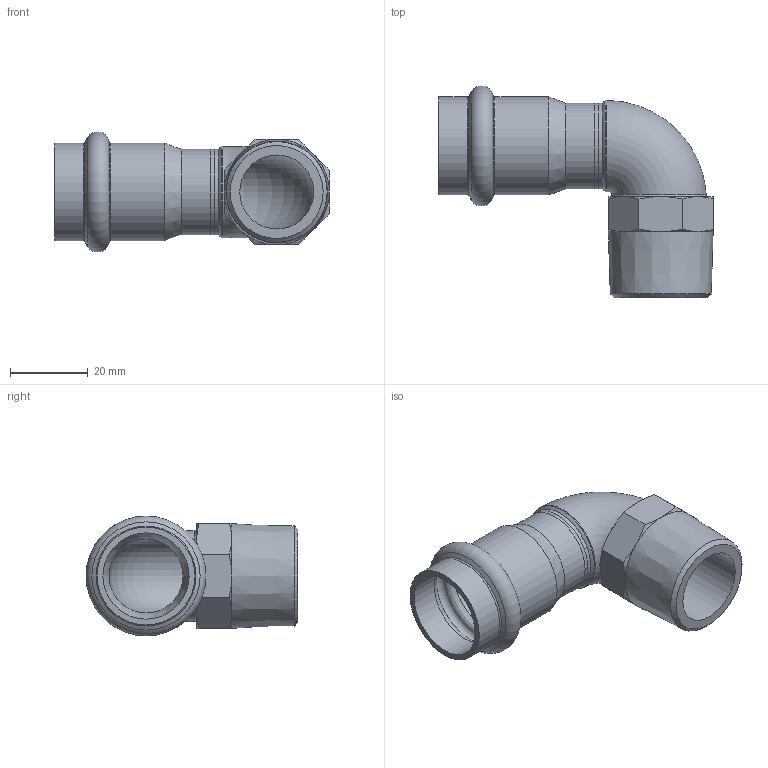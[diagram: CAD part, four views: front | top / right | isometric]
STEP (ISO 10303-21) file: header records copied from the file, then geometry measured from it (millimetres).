
FILE_DESCRIPTION((''),'2;1');
FILE_NAME('G:\Nirosan-Schmiedefeld\Technics\CAD\001 Serie 9.000\022\69092AG2234H(3).stp','2017-05-15T15:25:35',('herberg'),(''),'Autodesk Inventor 2009','Autodesk Inventor 2009','');
FILE_SCHEMA(('AUTOMOTIVE_DESIGN { 1 0 10303 214 1 1 1 1 }'));
Length unit declared in the file: millimetre
Products named in the file (3): 69092AG2234H(3); 69ATWAG2234P(0); 69HM22P(1)
Assembly tree (2 placements, depth 2):
  69092AG2234H(3)
    69ATWAG2234P(0)
    69HM22P(1)
Bounding box: 70.5 x 54.39 x 30.78 mm (x, y, z)
Volume: 15580.2 mm3; surface area: 14123 mm2
Topology: 2 solids, 2 shells, 56 faces, 117 edges, 67 vertices
Faces by surface type: cone 23, plane 14, cylinder 10, bspline 5, torus 4
Full cylindrical faces by diameter (mm): 19 x3, 22 x2, 22.15 x2, 23.4 x1, 25.15 x2
Entity records: 2233 total; most frequent: CARTESIAN_POINT 1172, DIRECTION 212, ORIENTED_EDGE 176, AXIS2_PLACEMENT_3D 102, EDGE_CURVE 88, EDGE_LOOP 87, VERTEX_POINT 63, FACE_OUTER_BOUND 56
